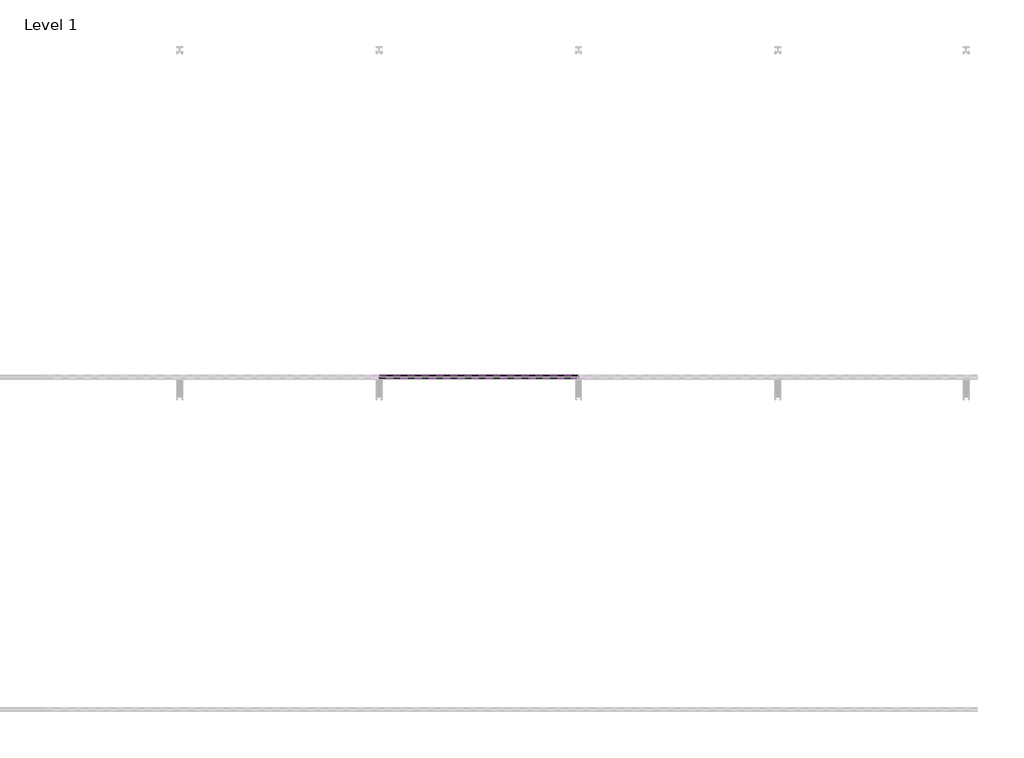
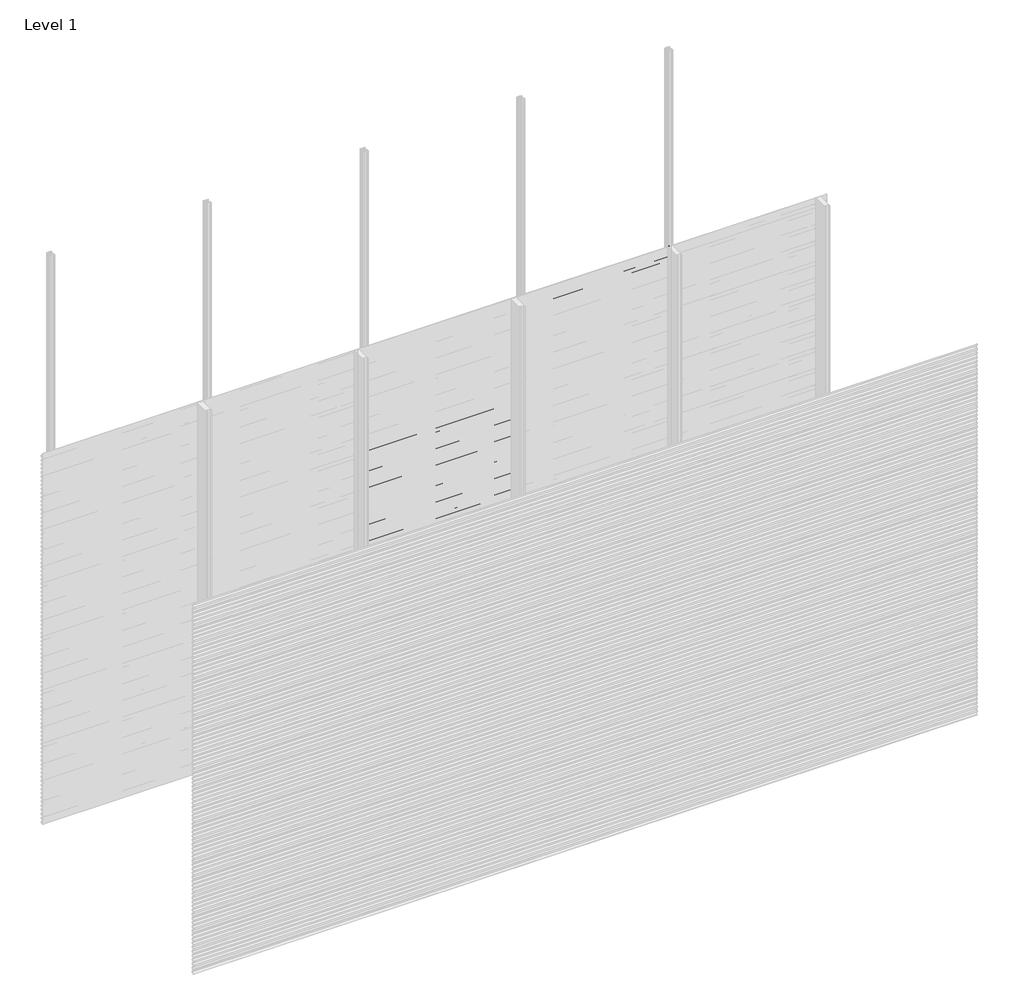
# One storey, part 15 of 77: 72 proxies.
"""IFC4 building model written with IfcOpenShell, lengths in millimetres."""

from ifc_helpers import new_model, si_unit, frame, origin, place, context, project, spatial, polyline, outline, extrude, element, save

model = new_model("IFC4")

# Units and contexts
model_context = context("Model", 3, world=origin())
ifc_project = project(units=[si_unit("LENGTHUNIT", "METRE", prefix="MILLI")], contexts=[model_context])

# Site, building, storey
site = spatial("IfcSite", under=ifc_project)
building = spatial("IfcBuilding", under=site)
storey = spatial("IfcBuildingStorey", under=building, Name="Level 1", Elevation=0.0)

# Proxies
placement = place(None, origin())
element("IfcBuildingElementProxy", 1, Name="Wall Sweeps", at=placement, inside=storey, context=model_context, shape_type="SweptSolid", body=[
    extrude(outline(polyline([(-47978.6, 2206.6359887), (-47998.0, 2217.8366691), (-47998.0, 2231.1), (-47997.0, 2231.1), (-47997.0, 2218.4191057), (-47977.6, 2207.2185105), (-47977.6, 2193.6185105), (-47978.6, 2195.1953129), (-47978.6, 2201.0032062), (-47995.9773817, 2192.9), (-47996.4, 2193.8063078), (-47978.6, 2202.1065841), (-47978.6, 2206.6359887)])), frame((2400.0, 0.0, 0.0), z_axis=(1.0, 0.0, 0.0), x_axis=(0.0, 1.0, 0.0)), (0.0, 0.0, 1.0), 1200.0),
])
element("IfcBuildingElementProxy", 2, Name="Wall Sweeps", at=placement, inside=storey, context=model_context, shape_type="SweptSolid", body=[
    extrude(outline(polyline([(-47978.6, 2173.3359887), (-47998.0, 2184.5366691), (-47998.0, 2197.8), (-47997.0, 2197.8), (-47997.0, 2185.1191057), (-47977.6, 2173.9185105), (-47977.6, 2160.3185105), (-47978.6, 2161.8953129), (-47978.6, 2167.7032062), (-47995.9773817, 2159.6), (-47996.4, 2160.5063078), (-47978.6, 2168.8065841), (-47978.6, 2173.3359887)])), frame((2400.0, 0.0, 0.0), z_axis=(1.0, 0.0, 0.0), x_axis=(0.0, 1.0, 0.0)), (0.0, 0.0, 1.0), 1200.0),
])
element("IfcBuildingElementProxy", 3, Name="Wall Sweeps", at=placement, inside=storey, context=model_context, shape_type="SweptSolid", body=[
    extrude(outline(polyline([(-47978.6, 2140.0359887), (-47998.0, 2151.2366691), (-47998.0, 2164.5), (-47997.0, 2164.5), (-47997.0, 2151.8191057), (-47977.6, 2140.6185105), (-47977.6, 2127.0185105), (-47978.6, 2128.5953129), (-47978.6, 2134.4032062), (-47995.9773817, 2126.3), (-47996.4, 2127.2063078), (-47978.6, 2135.5065841), (-47978.6, 2140.0359887)])), frame((2400.0, 0.0, 0.0), z_axis=(1.0, 0.0, 0.0), x_axis=(0.0, 1.0, 0.0)), (0.0, 0.0, 1.0), 1200.0),
])
element("IfcBuildingElementProxy", 4, Name="Wall Sweeps", at=placement, inside=storey, context=model_context, shape_type="SweptSolid", body=[
    extrude(outline(polyline([(-47978.6, 2106.7359887), (-47998.0, 2117.9366691), (-47998.0, 2131.2), (-47997.0, 2131.2), (-47997.0, 2118.5191057), (-47977.6, 2107.3185105), (-47977.6, 2093.7185105), (-47978.6, 2095.2953129), (-47978.6, 2101.1032062), (-47995.9773817, 2093.0), (-47996.4, 2093.9063078), (-47978.6, 2102.2065841), (-47978.6, 2106.7359887)])), frame((2400.0, 0.0, 0.0), z_axis=(1.0, 0.0, 0.0), x_axis=(0.0, 1.0, 0.0)), (0.0, 0.0, 1.0), 1200.0),
])
element("IfcBuildingElementProxy", 5, Name="Wall Sweeps", at=placement, inside=storey, context=model_context, shape_type="SweptSolid", body=[
    extrude(outline(polyline([(-47978.6, 2073.4359887), (-47998.0, 2084.6366691), (-47998.0, 2097.9), (-47997.0, 2097.9), (-47997.0, 2085.2191057), (-47977.6, 2074.0185105), (-47977.6, 2060.4185105), (-47978.6, 2061.9953129), (-47978.6, 2067.8032062), (-47995.9773817, 2059.7), (-47996.4, 2060.6063078), (-47978.6, 2068.9065841), (-47978.6, 2073.4359887)])), frame((2400.0, 0.0, 0.0), z_axis=(1.0, 0.0, 0.0), x_axis=(0.0, 1.0, 0.0)), (0.0, 0.0, 1.0), 1200.0),
])
element("IfcBuildingElementProxy", 6, Name="Wall Sweeps", at=placement, inside=storey, context=model_context, shape_type="SweptSolid", body=[
    extrude(outline(polyline([(-47978.6, 2040.1359887), (-47998.0, 2051.3366691), (-47998.0, 2064.6), (-47997.0, 2064.6), (-47997.0, 2051.9191057), (-47977.6, 2040.7185105), (-47977.6, 2027.1185105), (-47978.6, 2028.6953129), (-47978.6, 2034.5032062), (-47995.9773817, 2026.4), (-47996.4, 2027.3063078), (-47978.6, 2035.6065841), (-47978.6, 2040.1359887)])), frame((2400.0, 0.0, 0.0), z_axis=(1.0, 0.0, 0.0), x_axis=(0.0, 1.0, 0.0)), (0.0, 0.0, 1.0), 1200.0),
])
element("IfcBuildingElementProxy", 7, Name="Wall Sweeps", at=placement, inside=storey, context=model_context, shape_type="SweptSolid", body=[
    extrude(outline(polyline([(-47978.6, 2006.8359887), (-47998.0, 2018.0366691), (-47998.0, 2031.3), (-47997.0, 2031.3), (-47997.0, 2018.6191057), (-47977.6, 2007.4185105), (-47977.6, 1993.8185105), (-47978.6, 1995.3953129), (-47978.6, 2001.2032062), (-47995.9773817, 1993.1), (-47996.4, 1994.0063078), (-47978.6, 2002.3065841), (-47978.6, 2006.8359887)])), frame((2400.0, 0.0, 0.0), z_axis=(1.0, 0.0, 0.0), x_axis=(0.0, 1.0, 0.0)), (0.0, 0.0, 1.0), 1200.0),
])
element("IfcBuildingElementProxy", 8, Name="Wall Sweeps", at=placement, inside=storey, context=model_context, shape_type="SweptSolid", body=[
    extrude(outline(polyline([(-47978.6, 1973.5359887), (-47998.0, 1984.7366691), (-47998.0, 1998.0), (-47997.0, 1998.0), (-47997.0, 1985.3191057), (-47977.6, 1974.1185105), (-47977.6, 1960.5185105), (-47978.6, 1962.0953129), (-47978.6, 1967.9032062), (-47995.9773817, 1959.8), (-47996.4, 1960.7063078), (-47978.6, 1969.0065841), (-47978.6, 1973.5359887)])), frame((2400.0, 0.0, 0.0), z_axis=(1.0, 0.0, 0.0), x_axis=(0.0, 1.0, 0.0)), (0.0, 0.0, 1.0), 1200.0),
])
element("IfcBuildingElementProxy", 9, Name="Wall Sweeps", at=placement, inside=storey, context=model_context, shape_type="SweptSolid", body=[
    extrude(outline(polyline([(-47978.6, 1940.2359887), (-47998.0, 1951.4366691), (-47998.0, 1964.7), (-47997.0, 1964.7), (-47997.0, 1952.0191057), (-47977.6, 1940.8185105), (-47977.6, 1927.2185105), (-47978.6, 1928.7953129), (-47978.6, 1934.6032062), (-47995.9773817, 1926.5), (-47996.4, 1927.4063078), (-47978.6, 1935.7065841), (-47978.6, 1940.2359887)])), frame((2400.0, 0.0, 0.0), z_axis=(1.0, 0.0, 0.0), x_axis=(0.0, 1.0, 0.0)), (0.0, 0.0, 1.0), 1200.0),
])
element("IfcBuildingElementProxy", 10, Name="Wall Sweeps", at=placement, inside=storey, context=model_context, shape_type="SweptSolid", body=[
    extrude(outline(polyline([(-47978.6, 1906.9359887), (-47998.0, 1918.1366691), (-47998.0, 1931.4), (-47997.0, 1931.4), (-47997.0, 1918.7191057), (-47977.6, 1907.5185105), (-47977.6, 1893.9185105), (-47978.6, 1895.4953129), (-47978.6, 1901.3032062), (-47995.9773817, 1893.2), (-47996.4, 1894.1063078), (-47978.6, 1902.4065841), (-47978.6, 1906.9359887)])), frame((2400.0, 0.0, 0.0), z_axis=(1.0, 0.0, 0.0), x_axis=(0.0, 1.0, 0.0)), (0.0, 0.0, 1.0), 1200.0),
])
element("IfcBuildingElementProxy", 11, Name="Wall Sweeps", at=placement, inside=storey, context=model_context, shape_type="SweptSolid", body=[
    extrude(outline(polyline([(-47978.6, 1873.6359887), (-47998.0, 1884.8366691), (-47998.0, 1898.1), (-47997.0, 1898.1), (-47997.0, 1885.4191057), (-47977.6, 1874.2185105), (-47977.6, 1860.6185105), (-47978.6, 1862.1953129), (-47978.6, 1868.0032062), (-47995.9773817, 1859.9), (-47996.4, 1860.8063078), (-47978.6, 1869.1065841), (-47978.6, 1873.6359887)])), frame((2400.0, 0.0, 0.0), z_axis=(1.0, 0.0, 0.0), x_axis=(0.0, 1.0, 0.0)), (0.0, 0.0, 1.0), 1200.0),
])
element("IfcBuildingElementProxy", 12, Name="Wall Sweeps", at=placement, inside=storey, context=model_context, shape_type="SweptSolid", body=[
    extrude(outline(polyline([(-47978.6, 1840.3359887), (-47998.0, 1851.5366691), (-47998.0, 1864.8), (-47997.0, 1864.8), (-47997.0, 1852.1191057), (-47977.6, 1840.9185105), (-47977.6, 1827.3185105), (-47978.6, 1828.8953129), (-47978.6, 1834.7032062), (-47995.9773817, 1826.6), (-47996.4, 1827.5063078), (-47978.6, 1835.8065841), (-47978.6, 1840.3359887)])), frame((2400.0, 0.0, 0.0), z_axis=(1.0, 0.0, 0.0), x_axis=(0.0, 1.0, 0.0)), (0.0, 0.0, 1.0), 1200.0),
])
element("IfcBuildingElementProxy", 13, Name="Wall Sweeps", at=placement, inside=storey, context=model_context, shape_type="SweptSolid", body=[
    extrude(outline(polyline([(-47978.6, 1807.0359887), (-47998.0, 1818.2366691), (-47998.0, 1831.5), (-47997.0, 1831.5), (-47997.0, 1818.8191057), (-47977.6, 1807.6185105), (-47977.6, 1794.0185105), (-47978.6, 1795.5953129), (-47978.6, 1801.4032062), (-47995.9773817, 1793.3), (-47996.4, 1794.2063078), (-47978.6, 1802.5065841), (-47978.6, 1807.0359887)])), frame((2400.0, 0.0, 0.0), z_axis=(1.0, 0.0, 0.0), x_axis=(0.0, 1.0, 0.0)), (0.0, 0.0, 1.0), 1200.0),
])
element("IfcBuildingElementProxy", 14, Name="Wall Sweeps", at=placement, inside=storey, context=model_context, shape_type="SweptSolid", body=[
    extrude(outline(polyline([(-47978.6, 1773.7359887), (-47998.0, 1784.9366691), (-47998.0, 1798.2), (-47997.0, 1798.2), (-47997.0, 1785.5191057), (-47977.6, 1774.3185105), (-47977.6, 1760.7185105), (-47978.6, 1762.2953129), (-47978.6, 1768.1032062), (-47995.9773817, 1760.0), (-47996.4, 1760.9063078), (-47978.6, 1769.2065841), (-47978.6, 1773.7359887)])), frame((2400.0, 0.0, 0.0), z_axis=(1.0, 0.0, 0.0), x_axis=(0.0, 1.0, 0.0)), (0.0, 0.0, 1.0), 1200.0),
])
element("IfcBuildingElementProxy", 15, Name="Wall Sweeps", at=placement, inside=storey, context=model_context, shape_type="SweptSolid", body=[
    extrude(outline(polyline([(-47978.6, 1740.4359887), (-47998.0, 1751.6366691), (-47998.0, 1764.9), (-47997.0, 1764.9), (-47997.0, 1752.2191057), (-47977.6, 1741.0185105), (-47977.6, 1727.4185105), (-47978.6, 1728.9953129), (-47978.6, 1734.8032062), (-47995.9773817, 1726.7), (-47996.4, 1727.6063078), (-47978.6, 1735.9065841), (-47978.6, 1740.4359887)])), frame((2400.0, 0.0, 0.0), z_axis=(1.0, 0.0, 0.0), x_axis=(0.0, 1.0, 0.0)), (0.0, 0.0, 1.0), 1200.0),
])
element("IfcBuildingElementProxy", 16, Name="Wall Sweeps", at=placement, inside=storey, context=model_context, shape_type="SweptSolid", body=[
    extrude(outline(polyline([(-47978.6, 1707.1359887), (-47998.0, 1718.3366691), (-47998.0, 1731.6), (-47997.0, 1731.6), (-47997.0, 1718.9191057), (-47977.6, 1707.7185105), (-47977.6, 1694.1185105), (-47978.6, 1695.6953129), (-47978.6, 1701.5032062), (-47995.9773817, 1693.4), (-47996.4, 1694.3063078), (-47978.6, 1702.6065841), (-47978.6, 1707.1359887)])), frame((2400.0, 0.0, 0.0), z_axis=(1.0, 0.0, 0.0), x_axis=(0.0, 1.0, 0.0)), (0.0, 0.0, 1.0), 1200.0),
])
element("IfcBuildingElementProxy", 17, Name="Wall Sweeps", at=placement, inside=storey, context=model_context, shape_type="SweptSolid", body=[
    extrude(outline(polyline([(-47978.6, 1673.8359887), (-47998.0, 1685.0366691), (-47998.0, 1698.3), (-47997.0, 1698.3), (-47997.0, 1685.6191057), (-47977.6, 1674.4185105), (-47977.6, 1660.8185105), (-47978.6, 1662.3953129), (-47978.6, 1668.2032062), (-47995.9773817, 1660.1), (-47996.4, 1661.0063078), (-47978.6, 1669.3065841), (-47978.6, 1673.8359887)])), frame((2400.0, 0.0, 0.0), z_axis=(1.0, 0.0, 0.0), x_axis=(0.0, 1.0, 0.0)), (0.0, 0.0, 1.0), 1200.0),
])
element("IfcBuildingElementProxy", 18, Name="Wall Sweeps", at=placement, inside=storey, context=model_context, shape_type="SweptSolid", body=[
    extrude(outline(polyline([(-47978.6, 1640.5359887), (-47998.0, 1651.7366691), (-47998.0, 1665.0), (-47997.0, 1665.0), (-47997.0, 1652.3191057), (-47977.6, 1641.1185105), (-47977.6, 1627.5185105), (-47978.6, 1629.0953129), (-47978.6, 1634.9032062), (-47995.9773817, 1626.8), (-47996.4, 1627.7063078), (-47978.6, 1636.0065841), (-47978.6, 1640.5359887)])), frame((2400.0, 0.0, 0.0), z_axis=(1.0, 0.0, 0.0), x_axis=(0.0, 1.0, 0.0)), (0.0, 0.0, 1.0), 1200.0),
])
element("IfcBuildingElementProxy", 19, Name="Wall Sweeps", at=placement, inside=storey, context=model_context, shape_type="SweptSolid", body=[
    extrude(outline(polyline([(-47978.6, 1607.2359887), (-47998.0, 1618.4366691), (-47998.0, 1631.7), (-47997.0, 1631.7), (-47997.0, 1619.0191057), (-47977.6, 1607.8185105), (-47977.6, 1594.2185105), (-47978.6, 1595.7953129), (-47978.6, 1601.6032062), (-47995.9773817, 1593.5), (-47996.4, 1594.4063078), (-47978.6, 1602.7065841), (-47978.6, 1607.2359887)])), frame((2400.0, 0.0, 0.0), z_axis=(1.0, 0.0, 0.0), x_axis=(0.0, 1.0, 0.0)), (0.0, 0.0, 1.0), 1200.0),
])
element("IfcBuildingElementProxy", 20, Name="Wall Sweeps", at=placement, inside=storey, context=model_context, shape_type="SweptSolid", body=[
    extrude(outline(polyline([(-47978.6, 1573.9359887), (-47998.0, 1585.1366691), (-47998.0, 1598.4), (-47997.0, 1598.4), (-47997.0, 1585.7191057), (-47977.6, 1574.5185105), (-47977.6, 1560.9185105), (-47978.6, 1562.4953129), (-47978.6, 1568.3032062), (-47995.9773817, 1560.2), (-47996.4, 1561.1063078), (-47978.6, 1569.4065841), (-47978.6, 1573.9359887)])), frame((2400.0, 0.0, 0.0), z_axis=(1.0, 0.0, 0.0), x_axis=(0.0, 1.0, 0.0)), (0.0, 0.0, 1.0), 1200.0),
])
element("IfcBuildingElementProxy", 21, Name="Wall Sweeps", at=placement, inside=storey, context=model_context, shape_type="SweptSolid", body=[
    extrude(outline(polyline([(-47978.6, 1540.6359887), (-47998.0, 1551.8366691), (-47998.0, 1565.1), (-47997.0, 1565.1), (-47997.0, 1552.4191057), (-47977.6, 1541.2185105), (-47977.6, 1527.6185105), (-47978.6, 1529.1953129), (-47978.6, 1535.0032062), (-47995.9773817, 1526.9), (-47996.4, 1527.8063078), (-47978.6, 1536.1065841), (-47978.6, 1540.6359887)])), frame((2400.0, 0.0, 0.0), z_axis=(1.0, 0.0, 0.0), x_axis=(0.0, 1.0, 0.0)), (0.0, 0.0, 1.0), 1200.0),
])
element("IfcBuildingElementProxy", 22, Name="Wall Sweeps", at=placement, inside=storey, context=model_context, shape_type="SweptSolid", body=[
    extrude(outline(polyline([(-47978.6, 1507.3359887), (-47998.0, 1518.5366691), (-47998.0, 1531.8), (-47997.0, 1531.8), (-47997.0, 1519.1191057), (-47977.6, 1507.9185105), (-47977.6, 1494.3185105), (-47978.6, 1495.8953129), (-47978.6, 1501.7032062), (-47995.9773817, 1493.6), (-47996.4, 1494.5063078), (-47978.6, 1502.8065841), (-47978.6, 1507.3359887)])), frame((2400.0, 0.0, 0.0), z_axis=(1.0, 0.0, 0.0), x_axis=(0.0, 1.0, 0.0)), (0.0, 0.0, 1.0), 1200.0),
])
element("IfcBuildingElementProxy", 23, Name="Wall Sweeps", at=placement, inside=storey, context=model_context, shape_type="SweptSolid", body=[
    extrude(outline(polyline([(-47978.6, 1474.0359887), (-47998.0, 1485.2366691), (-47998.0, 1498.5), (-47997.0, 1498.5), (-47997.0, 1485.8191057), (-47977.6, 1474.6185105), (-47977.6, 1461.0185105), (-47978.6, 1462.5953129), (-47978.6, 1468.4032062), (-47995.9773817, 1460.3), (-47996.4, 1461.2063078), (-47978.6, 1469.5065841), (-47978.6, 1474.0359887)])), frame((2400.0, 0.0, 0.0), z_axis=(1.0, 0.0, 0.0), x_axis=(0.0, 1.0, 0.0)), (0.0, 0.0, 1.0), 1200.0),
])
element("IfcBuildingElementProxy", 24, Name="Wall Sweeps", at=placement, inside=storey, context=model_context, shape_type="SweptSolid", body=[
    extrude(outline(polyline([(-47978.6, 1440.7359887), (-47998.0, 1451.9366691), (-47998.0, 1465.2), (-47997.0, 1465.2), (-47997.0, 1452.5191057), (-47977.6, 1441.3185105), (-47977.6, 1427.7185105), (-47978.6, 1429.2953129), (-47978.6, 1435.1032062), (-47995.9773817, 1427.0), (-47996.4, 1427.9063078), (-47978.6, 1436.2065841), (-47978.6, 1440.7359887)])), frame((2400.0, 0.0, 0.0), z_axis=(1.0, 0.0, 0.0), x_axis=(0.0, 1.0, 0.0)), (0.0, 0.0, 1.0), 1200.0),
])
element("IfcBuildingElementProxy", 25, Name="Wall Sweeps", at=placement, inside=storey, context=model_context, shape_type="SweptSolid", body=[
    extrude(outline(polyline([(-47978.6, 1407.4359887), (-47998.0, 1418.6366691), (-47998.0, 1431.9), (-47997.0, 1431.9), (-47997.0, 1419.2191057), (-47977.6, 1408.0185105), (-47977.6, 1394.4185105), (-47978.6, 1395.9953129), (-47978.6, 1401.8032062), (-47995.9773817, 1393.7), (-47996.4, 1394.6063078), (-47978.6, 1402.9065841), (-47978.6, 1407.4359887)])), frame((2400.0, 0.0, 0.0), z_axis=(1.0, 0.0, 0.0), x_axis=(0.0, 1.0, 0.0)), (0.0, 0.0, 1.0), 1200.0),
])
element("IfcBuildingElementProxy", 26, Name="Wall Sweeps", at=placement, inside=storey, context=model_context, shape_type="SweptSolid", body=[
    extrude(outline(polyline([(-47978.6, 1374.1359887), (-47998.0, 1385.3366691), (-47998.0, 1398.6), (-47997.0, 1398.6), (-47997.0, 1385.9191057), (-47977.6, 1374.7185105), (-47977.6, 1361.1185105), (-47978.6, 1362.6953129), (-47978.6, 1368.5032062), (-47995.9773817, 1360.4), (-47996.4, 1361.3063078), (-47978.6, 1369.6065841), (-47978.6, 1374.1359887)])), frame((2400.0, 0.0, 0.0), z_axis=(1.0, 0.0, 0.0), x_axis=(0.0, 1.0, 0.0)), (0.0, 0.0, 1.0), 1200.0),
])
element("IfcBuildingElementProxy", 27, Name="Wall Sweeps", at=placement, inside=storey, context=model_context, shape_type="SweptSolid", body=[
    extrude(outline(polyline([(-47978.6, 1340.8359887), (-47998.0, 1352.0366691), (-47998.0, 1365.3), (-47997.0, 1365.3), (-47997.0, 1352.6191057), (-47977.6, 1341.4185105), (-47977.6, 1327.8185105), (-47978.6, 1329.3953129), (-47978.6, 1335.2032062), (-47995.9773817, 1327.1), (-47996.4, 1328.0063078), (-47978.6, 1336.3065841), (-47978.6, 1340.8359887)])), frame((2400.0, 0.0, 0.0), z_axis=(1.0, 0.0, 0.0), x_axis=(0.0, 1.0, 0.0)), (0.0, 0.0, 1.0), 1200.0),
])
element("IfcBuildingElementProxy", 28, Name="Wall Sweeps", at=placement, inside=storey, context=model_context, shape_type="SweptSolid", body=[
    extrude(outline(polyline([(-47978.6, 1307.5359887), (-47998.0, 1318.7366691), (-47998.0, 1332.0), (-47997.0, 1332.0), (-47997.0, 1319.3191057), (-47977.6, 1308.1185105), (-47977.6, 1294.5185105), (-47978.6, 1296.0953129), (-47978.6, 1301.9032062), (-47995.9773817, 1293.8), (-47996.4, 1294.7063078), (-47978.6, 1303.0065841), (-47978.6, 1307.5359887)])), frame((2400.0, 0.0, 0.0), z_axis=(1.0, 0.0, 0.0), x_axis=(0.0, 1.0, 0.0)), (0.0, 0.0, 1.0), 1200.0),
])
element("IfcBuildingElementProxy", 29, Name="Wall Sweeps", at=placement, inside=storey, context=model_context, shape_type="SweptSolid", body=[
    extrude(outline(polyline([(-47978.6, 1274.2359887), (-47998.0, 1285.4366691), (-47998.0, 1298.7), (-47997.0, 1298.7), (-47997.0, 1286.0191057), (-47977.6, 1274.8185105), (-47977.6, 1261.2185105), (-47978.6, 1262.7953129), (-47978.6, 1268.6032062), (-47995.9773817, 1260.5), (-47996.4, 1261.4063078), (-47978.6, 1269.7065841), (-47978.6, 1274.2359887)])), frame((2400.0, 0.0, 0.0), z_axis=(1.0, 0.0, 0.0), x_axis=(0.0, 1.0, 0.0)), (0.0, 0.0, 1.0), 1200.0),
])
element("IfcBuildingElementProxy", 30, Name="Wall Sweeps", at=placement, inside=storey, context=model_context, shape_type="SweptSolid", body=[
    extrude(outline(polyline([(-47978.6, 1240.9359887), (-47998.0, 1252.1366691), (-47998.0, 1265.4), (-47997.0, 1265.4), (-47997.0, 1252.7191057), (-47977.6, 1241.5185105), (-47977.6, 1227.9185105), (-47978.6, 1229.4953129), (-47978.6, 1235.3032062), (-47995.9773817, 1227.2), (-47996.4, 1228.1063078), (-47978.6, 1236.4065841), (-47978.6, 1240.9359887)])), frame((2400.0, 0.0, 0.0), z_axis=(1.0, 0.0, 0.0), x_axis=(0.0, 1.0, 0.0)), (0.0, 0.0, 1.0), 1200.0),
])
element("IfcBuildingElementProxy", 31, Name="Wall Sweeps", at=placement, inside=storey, context=model_context, shape_type="SweptSolid", body=[
    extrude(outline(polyline([(-47978.6, 1207.6359887), (-47998.0, 1218.8366691), (-47998.0, 1232.1), (-47997.0, 1232.1), (-47997.0, 1219.4191057), (-47977.6, 1208.2185105), (-47977.6, 1194.6185105), (-47978.6, 1196.1953129), (-47978.6, 1202.0032062), (-47995.9773817, 1193.9), (-47996.4, 1194.8063078), (-47978.6, 1203.1065841), (-47978.6, 1207.6359887)])), frame((2400.0, 0.0, 0.0), z_axis=(1.0, 0.0, 0.0), x_axis=(0.0, 1.0, 0.0)), (0.0, 0.0, 1.0), 1200.0),
])
element("IfcBuildingElementProxy", 32, Name="Wall Sweeps", at=placement, inside=storey, context=model_context, shape_type="SweptSolid", body=[
    extrude(outline(polyline([(-47978.6, 1174.3359887), (-47998.0, 1185.5366691), (-47998.0, 1198.8), (-47997.0, 1198.8), (-47997.0, 1186.1191057), (-47977.6, 1174.9185105), (-47977.6, 1161.3185105), (-47978.6, 1162.8953129), (-47978.6, 1168.7032062), (-47995.9773817, 1160.6), (-47996.4, 1161.5063078), (-47978.6, 1169.8065841), (-47978.6, 1174.3359887)])), frame((2400.0, 0.0, 0.0), z_axis=(1.0, 0.0, 0.0), x_axis=(0.0, 1.0, 0.0)), (0.0, 0.0, 1.0), 1200.0),
])
element("IfcBuildingElementProxy", 33, Name="Wall Sweeps", at=placement, inside=storey, context=model_context, shape_type="SweptSolid", body=[
    extrude(outline(polyline([(-47978.6, 1141.0359887), (-47998.0, 1152.2366691), (-47998.0, 1165.5), (-47997.0, 1165.5), (-47997.0, 1152.8191057), (-47977.6, 1141.6185105), (-47977.6, 1128.0185105), (-47978.6, 1129.5953129), (-47978.6, 1135.4032062), (-47995.9773817, 1127.3), (-47996.4, 1128.2063078), (-47978.6, 1136.5065841), (-47978.6, 1141.0359887)])), frame((2400.0, 0.0, 0.0), z_axis=(1.0, 0.0, 0.0), x_axis=(0.0, 1.0, 0.0)), (0.0, 0.0, 1.0), 1200.0),
])
element("IfcBuildingElementProxy", 34, Name="Wall Sweeps", at=placement, inside=storey, context=model_context, shape_type="SweptSolid", body=[
    extrude(outline(polyline([(-47978.6, 1107.7359887), (-47998.0, 1118.9366691), (-47998.0, 1132.2), (-47997.0, 1132.2), (-47997.0, 1119.5191057), (-47977.6, 1108.3185105), (-47977.6, 1094.7185105), (-47978.6, 1096.2953129), (-47978.6, 1102.1032062), (-47995.9773817, 1094.0), (-47996.4, 1094.9063078), (-47978.6, 1103.2065841), (-47978.6, 1107.7359887)])), frame((2400.0, 0.0, 0.0), z_axis=(1.0, 0.0, 0.0), x_axis=(0.0, 1.0, 0.0)), (0.0, 0.0, 1.0), 1200.0),
])
element("IfcBuildingElementProxy", 35, Name="Wall Sweeps", at=placement, inside=storey, context=model_context, shape_type="SweptSolid", body=[
    extrude(outline(polyline([(-47978.6, 1074.4359887), (-47998.0, 1085.6366691), (-47998.0, 1098.9), (-47997.0, 1098.9), (-47997.0, 1086.2191057), (-47977.6, 1075.0185105), (-47977.6, 1061.4185105), (-47978.6, 1062.9953129), (-47978.6, 1068.8032062), (-47995.9773817, 1060.7), (-47996.4, 1061.6063078), (-47978.6, 1069.9065841), (-47978.6, 1074.4359887)])), frame((2400.0, 0.0, 0.0), z_axis=(1.0, 0.0, 0.0), x_axis=(0.0, 1.0, 0.0)), (0.0, 0.0, 1.0), 1200.0),
])
element("IfcBuildingElementProxy", 36, Name="Wall Sweeps", at=placement, inside=storey, context=model_context, shape_type="SweptSolid", body=[
    extrude(outline(polyline([(-47978.6, 1041.1359887), (-47998.0, 1052.3366691), (-47998.0, 1065.6), (-47997.0, 1065.6), (-47997.0, 1052.9191057), (-47977.6, 1041.7185105), (-47977.6, 1028.1185105), (-47978.6, 1029.6953129), (-47978.6, 1035.5032062), (-47995.9773817, 1027.4), (-47996.4, 1028.3063078), (-47978.6, 1036.6065841), (-47978.6, 1041.1359887)])), frame((2400.0, 0.0, 0.0), z_axis=(1.0, 0.0, 0.0), x_axis=(0.0, 1.0, 0.0)), (0.0, 0.0, 1.0), 1200.0),
])
element("IfcBuildingElementProxy", 37, Name="Wall Sweeps", at=placement, inside=storey, context=model_context, shape_type="SweptSolid", body=[
    extrude(outline(polyline([(-47978.6, 1007.8359887), (-47998.0, 1019.0366691), (-47998.0, 1032.3), (-47997.0, 1032.3), (-47997.0, 1019.6191057), (-47977.6, 1008.4185105), (-47977.6, 994.8185105), (-47978.6, 996.3953129), (-47978.6, 1002.2032062), (-47995.9773817, 994.1), (-47996.4, 995.0063078), (-47978.6, 1003.3065841), (-47978.6, 1007.8359887)])), frame((2400.0, 0.0, 0.0), z_axis=(1.0, 0.0, 0.0), x_axis=(0.0, 1.0, 0.0)), (0.0, 0.0, 1.0), 1200.0),
])
element("IfcBuildingElementProxy", 38, Name="Wall Sweeps", at=placement, inside=storey, context=model_context, shape_type="SweptSolid", body=[
    extrude(outline(polyline([(-47978.6, 974.5359887), (-47998.0, 985.7366691), (-47998.0, 999.0), (-47997.0, 999.0), (-47997.0, 986.3191057), (-47977.6, 975.1185105), (-47977.6, 961.5185105), (-47978.6, 963.0953129), (-47978.6, 968.9032062), (-47995.9773817, 960.8), (-47996.4, 961.7063078), (-47978.6, 970.0065841), (-47978.6, 974.5359887)])), frame((2400.0, 0.0, 0.0), z_axis=(1.0, 0.0, 0.0), x_axis=(0.0, 1.0, 0.0)), (0.0, 0.0, 1.0), 1200.0),
])
element("IfcBuildingElementProxy", 39, Name="Wall Sweeps", at=placement, inside=storey, context=model_context, shape_type="SweptSolid", body=[
    extrude(outline(polyline([(-47978.6, 941.2359887), (-47998.0, 952.4366691), (-47998.0, 965.7), (-47997.0, 965.7), (-47997.0, 953.0191057), (-47977.6, 941.8185105), (-47977.6, 928.2185105), (-47978.6, 929.7953129), (-47978.6, 935.6032062), (-47995.9773817, 927.5), (-47996.4, 928.4063078), (-47978.6, 936.7065841), (-47978.6, 941.2359887)])), frame((2400.0, 0.0, 0.0), z_axis=(1.0, 0.0, 0.0), x_axis=(0.0, 1.0, 0.0)), (0.0, 0.0, 1.0), 1200.0),
])
element("IfcBuildingElementProxy", 40, Name="Wall Sweeps", at=placement, inside=storey, context=model_context, shape_type="SweptSolid", body=[
    extrude(outline(polyline([(-47978.6, 907.9359887), (-47998.0, 919.1366691), (-47998.0, 932.4), (-47997.0, 932.4), (-47997.0, 919.7191057), (-47977.6, 908.5185105), (-47977.6, 894.9185105), (-47978.6, 896.4953129), (-47978.6, 902.3032062), (-47995.9773817, 894.2), (-47996.4, 895.1063078), (-47978.6, 903.4065841), (-47978.6, 907.9359887)])), frame((2400.0, 0.0, 0.0), z_axis=(1.0, 0.0, 0.0), x_axis=(0.0, 1.0, 0.0)), (0.0, 0.0, 1.0), 1200.0),
])
element("IfcBuildingElementProxy", 41, Name="Wall Sweeps", at=placement, inside=storey, context=model_context, shape_type="SweptSolid", body=[
    extrude(outline(polyline([(-47978.6, 874.6359887), (-47998.0, 885.8366691), (-47998.0, 899.1), (-47997.0, 899.1), (-47997.0, 886.4191057), (-47977.6, 875.2185105), (-47977.6, 861.6185105), (-47978.6, 863.1953129), (-47978.6, 869.0032062), (-47995.9773817, 860.9), (-47996.4, 861.8063078), (-47978.6, 870.1065841), (-47978.6, 874.6359887)])), frame((2400.0, 0.0, 0.0), z_axis=(1.0, 0.0, 0.0), x_axis=(0.0, 1.0, 0.0)), (0.0, 0.0, 1.0), 1200.0),
])
element("IfcBuildingElementProxy", 42, Name="Wall Sweeps", at=placement, inside=storey, context=model_context, shape_type="SweptSolid", body=[
    extrude(outline(polyline([(-47978.6, 841.3359887), (-47998.0, 852.5366691), (-47998.0, 865.8), (-47997.0, 865.8), (-47997.0, 853.1191057), (-47977.6, 841.9185105), (-47977.6, 828.3185105), (-47978.6, 829.8953129), (-47978.6, 835.7032062), (-47995.9773817, 827.6), (-47996.4, 828.5063078), (-47978.6, 836.8065841), (-47978.6, 841.3359887)])), frame((2400.0, 0.0, 0.0), z_axis=(1.0, 0.0, 0.0), x_axis=(0.0, 1.0, 0.0)), (0.0, 0.0, 1.0), 1200.0),
])
element("IfcBuildingElementProxy", 43, Name="Wall Sweeps", at=placement, inside=storey, context=model_context, shape_type="SweptSolid", body=[
    extrude(outline(polyline([(-47978.6, 808.0359887), (-47998.0, 819.2366691), (-47998.0, 832.5), (-47997.0, 832.5), (-47997.0, 819.8191057), (-47977.6, 808.6185105), (-47977.6, 795.0185105), (-47978.6, 796.5953129), (-47978.6, 802.4032062), (-47995.9773817, 794.3), (-47996.4, 795.2063078), (-47978.6, 803.5065841), (-47978.6, 808.0359887)])), frame((2400.0, 0.0, 0.0), z_axis=(1.0, 0.0, 0.0), x_axis=(0.0, 1.0, 0.0)), (0.0, 0.0, 1.0), 1200.0),
])
element("IfcBuildingElementProxy", 44, Name="Wall Sweeps", at=placement, inside=storey, context=model_context, shape_type="SweptSolid", body=[
    extrude(outline(polyline([(-47978.6, 774.7359887), (-47998.0, 785.9366691), (-47998.0, 799.2), (-47997.0, 799.2), (-47997.0, 786.5191057), (-47977.6, 775.3185105), (-47977.6, 761.7185105), (-47978.6, 763.2953129), (-47978.6, 769.1032062), (-47995.9773817, 761.0), (-47996.4, 761.9063078), (-47978.6, 770.2065841), (-47978.6, 774.7359887)])), frame((2400.0, 0.0, 0.0), z_axis=(1.0, 0.0, 0.0), x_axis=(0.0, 1.0, 0.0)), (0.0, 0.0, 1.0), 1200.0),
])
element("IfcBuildingElementProxy", 45, Name="Wall Sweeps", at=placement, inside=storey, context=model_context, shape_type="SweptSolid", body=[
    extrude(outline(polyline([(-47978.6, 741.4359887), (-47998.0, 752.6366691), (-47998.0, 765.9), (-47997.0, 765.9), (-47997.0, 753.2191057), (-47977.6, 742.0185105), (-47977.6, 728.4185105), (-47978.6, 729.9953129), (-47978.6, 735.8032062), (-47995.9773817, 727.7), (-47996.4, 728.6063078), (-47978.6, 736.9065841), (-47978.6, 741.4359887)])), frame((2400.0, 0.0, 0.0), z_axis=(1.0, 0.0, 0.0), x_axis=(0.0, 1.0, 0.0)), (0.0, 0.0, 1.0), 1200.0),
])
element("IfcBuildingElementProxy", 46, Name="Wall Sweeps", at=placement, inside=storey, context=model_context, shape_type="SweptSolid", body=[
    extrude(outline(polyline([(-47978.6, 708.1359887), (-47998.0, 719.3366691), (-47998.0, 732.6), (-47997.0, 732.6), (-47997.0, 719.9191057), (-47977.6, 708.7185105), (-47977.6, 695.1185105), (-47978.6, 696.6953129), (-47978.6, 702.5032062), (-47995.9773817, 694.4), (-47996.4, 695.3063078), (-47978.6, 703.6065841), (-47978.6, 708.1359887)])), frame((2400.0, 0.0, 0.0), z_axis=(1.0, 0.0, 0.0), x_axis=(0.0, 1.0, 0.0)), (0.0, 0.0, 1.0), 1200.0),
])
element("IfcBuildingElementProxy", 47, Name="Wall Sweeps", at=placement, inside=storey, context=model_context, shape_type="SweptSolid", body=[
    extrude(outline(polyline([(-47978.6, 674.8359887), (-47998.0, 686.0366691), (-47998.0, 699.3), (-47997.0, 699.3), (-47997.0, 686.6191057), (-47977.6, 675.4185105), (-47977.6, 661.8185105), (-47978.6, 663.3953129), (-47978.6, 669.2032062), (-47995.9773817, 661.1), (-47996.4, 662.0063078), (-47978.6, 670.3065841), (-47978.6, 674.8359887)])), frame((2400.0, 0.0, 0.0), z_axis=(1.0, 0.0, 0.0), x_axis=(0.0, 1.0, 0.0)), (0.0, 0.0, 1.0), 1200.0),
])
element("IfcBuildingElementProxy", 48, Name="Wall Sweeps", at=placement, inside=storey, context=model_context, shape_type="SweptSolid", body=[
    extrude(outline(polyline([(-47978.6, 641.5359887), (-47998.0, 652.7366691), (-47998.0, 666.0), (-47997.0, 666.0), (-47997.0, 653.3191057), (-47977.6, 642.1185105), (-47977.6, 628.5185105), (-47978.6, 630.0953129), (-47978.6, 635.9032062), (-47995.9773817, 627.8), (-47996.4, 628.7063078), (-47978.6, 637.0065841), (-47978.6, 641.5359887)])), frame((2400.0, 0.0, 0.0), z_axis=(1.0, 0.0, 0.0), x_axis=(0.0, 1.0, 0.0)), (0.0, 0.0, 1.0), 1200.0),
])
element("IfcBuildingElementProxy", 49, Name="Wall Sweeps", at=placement, inside=storey, context=model_context, shape_type="SweptSolid", body=[
    extrude(outline(polyline([(-47978.6, 608.2359887), (-47998.0, 619.4366691), (-47998.0, 632.7), (-47997.0, 632.7), (-47997.0, 620.0191057), (-47977.6, 608.8185105), (-47977.6, 595.2185105), (-47978.6, 596.7953129), (-47978.6, 602.6032062), (-47995.9773817, 594.5), (-47996.4, 595.4063078), (-47978.6, 603.7065841), (-47978.6, 608.2359887)])), frame((2400.0, 0.0, 0.0), z_axis=(1.0, 0.0, 0.0), x_axis=(0.0, 1.0, 0.0)), (0.0, 0.0, 1.0), 1200.0),
])
element("IfcBuildingElementProxy", 50, Name="Wall Sweeps", at=placement, inside=storey, context=model_context, shape_type="SweptSolid", body=[
    extrude(outline(polyline([(-47978.6, 574.9359887), (-47998.0, 586.1366691), (-47998.0, 599.4), (-47997.0, 599.4), (-47997.0, 586.7191057), (-47977.6, 575.5185105), (-47977.6, 561.9185105), (-47978.6, 563.4953129), (-47978.6, 569.3032062), (-47995.9773817, 561.2), (-47996.4, 562.1063078), (-47978.6, 570.4065841), (-47978.6, 574.9359887)])), frame((2400.0, 0.0, 0.0), z_axis=(1.0, 0.0, 0.0), x_axis=(0.0, 1.0, 0.0)), (0.0, 0.0, 1.0), 1200.0),
])
element("IfcBuildingElementProxy", 51, Name="Wall Sweeps", at=placement, inside=storey, context=model_context, shape_type="SweptSolid", body=[
    extrude(outline(polyline([(-47978.6, 541.6359887), (-47998.0, 552.8366691), (-47998.0, 566.1), (-47997.0, 566.1), (-47997.0, 553.4191057), (-47977.6, 542.2185105), (-47977.6, 528.6185105), (-47978.6, 530.1953129), (-47978.6, 536.0032062), (-47995.9773817, 527.9), (-47996.4, 528.8063078), (-47978.6, 537.1065841), (-47978.6, 541.6359887)])), frame((2400.0, 0.0, 0.0), z_axis=(1.0, 0.0, 0.0), x_axis=(0.0, 1.0, 0.0)), (0.0, 0.0, 1.0), 1200.0),
])
element("IfcBuildingElementProxy", 52, Name="Wall Sweeps", at=placement, inside=storey, context=model_context, shape_type="SweptSolid", body=[
    extrude(outline(polyline([(-47978.6, 508.3359887), (-47998.0, 519.5366691), (-47998.0, 532.8), (-47997.0, 532.8), (-47997.0, 520.1191057), (-47977.6, 508.9185105), (-47977.6, 495.3185105), (-47978.6, 496.8953129), (-47978.6, 502.7032062), (-47995.9773817, 494.6), (-47996.4, 495.5063078), (-47978.6, 503.8065841), (-47978.6, 508.3359887)])), frame((2400.0, 0.0, 0.0), z_axis=(1.0, 0.0, 0.0), x_axis=(0.0, 1.0, 0.0)), (0.0, 0.0, 1.0), 1200.0),
])
element("IfcBuildingElementProxy", 53, Name="Wall Sweeps", at=placement, inside=storey, context=model_context, shape_type="SweptSolid", body=[
    extrude(outline(polyline([(-47978.6, 475.0359887), (-47998.0, 486.2366691), (-47998.0, 499.5), (-47997.0, 499.5), (-47997.0, 486.8191057), (-47977.6, 475.6185105), (-47977.6, 462.0185105), (-47978.6, 463.5953129), (-47978.6, 469.4032062), (-47995.9773817, 461.3), (-47996.4, 462.2063078), (-47978.6, 470.5065841), (-47978.6, 475.0359887)])), frame((2400.0, 0.0, 0.0), z_axis=(1.0, 0.0, 0.0), x_axis=(0.0, 1.0, 0.0)), (0.0, 0.0, 1.0), 1200.0),
])
element("IfcBuildingElementProxy", 54, Name="Wall Sweeps", at=placement, inside=storey, context=model_context, shape_type="SweptSolid", body=[
    extrude(outline(polyline([(-47978.6, 441.7359887), (-47998.0, 452.9366691), (-47998.0, 466.2), (-47997.0, 466.2), (-47997.0, 453.5191057), (-47977.6, 442.3185105), (-47977.6, 428.7185105), (-47978.6, 430.2953129), (-47978.6, 436.1032062), (-47995.9773817, 428.0), (-47996.4, 428.9063078), (-47978.6, 437.2065841), (-47978.6, 441.7359887)])), frame((2400.0, 0.0, 0.0), z_axis=(1.0, 0.0, 0.0), x_axis=(0.0, 1.0, 0.0)), (0.0, 0.0, 1.0), 1200.0),
])
element("IfcBuildingElementProxy", 55, Name="Wall Sweeps", at=placement, inside=storey, context=model_context, shape_type="SweptSolid", body=[
    extrude(outline(polyline([(-47978.6, 408.4359887), (-47998.0, 419.6366691), (-47998.0, 432.9), (-47997.0, 432.9), (-47997.0, 420.2191057), (-47977.6, 409.0185105), (-47977.6, 395.4185105), (-47978.6, 396.9953129), (-47978.6, 402.8032062), (-47995.9773817, 394.7), (-47996.4, 395.6063078), (-47978.6, 403.9065841), (-47978.6, 408.4359887)])), frame((2400.0, 0.0, 0.0), z_axis=(1.0, 0.0, 0.0), x_axis=(0.0, 1.0, 0.0)), (0.0, 0.0, 1.0), 1200.0),
])
element("IfcBuildingElementProxy", 56, Name="Wall Sweeps", at=placement, inside=storey, context=model_context, shape_type="SweptSolid", body=[
    extrude(outline(polyline([(-47978.6, 375.1359887), (-47998.0, 386.3366691), (-47998.0, 399.6), (-47997.0, 399.6), (-47997.0, 386.9191057), (-47977.6, 375.7185105), (-47977.6, 362.1185105), (-47978.6, 363.6953129), (-47978.6, 369.5032062), (-47995.9773817, 361.4), (-47996.4, 362.3063078), (-47978.6, 370.6065841), (-47978.6, 375.1359887)])), frame((2400.0, 0.0, 0.0), z_axis=(1.0, 0.0, 0.0), x_axis=(0.0, 1.0, 0.0)), (0.0, 0.0, 1.0), 1200.0),
])
element("IfcBuildingElementProxy", 57, Name="Wall Sweeps", at=placement, inside=storey, context=model_context, shape_type="SweptSolid", body=[
    extrude(outline(polyline([(-47978.6, 341.8359887), (-47998.0, 353.0366691), (-47998.0, 366.3), (-47997.0, 366.3), (-47997.0, 353.6191057), (-47977.6, 342.4185105), (-47977.6, 328.8185105), (-47978.6, 330.3953129), (-47978.6, 336.2032062), (-47995.9773817, 328.1), (-47996.4, 329.0063078), (-47978.6, 337.3065841), (-47978.6, 341.8359887)])), frame((2400.0, 0.0, 0.0), z_axis=(1.0, 0.0, 0.0), x_axis=(0.0, 1.0, 0.0)), (0.0, 0.0, 1.0), 1200.0),
])
element("IfcBuildingElementProxy", 58, Name="Wall Sweeps", at=placement, inside=storey, context=model_context, shape_type="SweptSolid", body=[
    extrude(outline(polyline([(-47978.6, 308.5359887), (-47998.0, 319.7366691), (-47998.0, 333.0), (-47997.0, 333.0), (-47997.0, 320.3191057), (-47977.6, 309.1185105), (-47977.6, 295.5185105), (-47978.6, 297.0953129), (-47978.6, 302.9032062), (-47995.9773817, 294.8), (-47996.4, 295.7063078), (-47978.6, 304.0065841), (-47978.6, 308.5359887)])), frame((2400.0, 0.0, 0.0), z_axis=(1.0, 0.0, 0.0), x_axis=(0.0, 1.0, 0.0)), (0.0, 0.0, 1.0), 1200.0),
])
element("IfcBuildingElementProxy", 59, Name="Wall Sweeps", at=placement, inside=storey, context=model_context, shape_type="SweptSolid", body=[
    extrude(outline(polyline([(-47978.6, 275.2359887), (-47998.0, 286.4366691), (-47998.0, 299.7), (-47997.0, 299.7), (-47997.0, 287.0191057), (-47977.6, 275.8185105), (-47977.6, 262.2185105), (-47978.6, 263.7953129), (-47978.6, 269.6032062), (-47995.9773817, 261.5), (-47996.4, 262.4063078), (-47978.6, 270.7065841), (-47978.6, 275.2359887)])), frame((2400.0, 0.0, 0.0), z_axis=(1.0, 0.0, 0.0), x_axis=(0.0, 1.0, 0.0)), (0.0, 0.0, 1.0), 1200.0),
])
element("IfcBuildingElementProxy", 60, Name="Wall Sweeps", at=placement, inside=storey, context=model_context, shape_type="SweptSolid", body=[
    extrude(outline(polyline([(-47978.6, 241.9359887), (-47998.0, 253.1366691), (-47998.0, 266.4), (-47997.0, 266.4), (-47997.0, 253.7191057), (-47977.6, 242.5185105), (-47977.6, 228.9185105), (-47978.6, 230.4953129), (-47978.6, 236.3032062), (-47995.9773817, 228.2), (-47996.4, 229.1063078), (-47978.6, 237.4065841), (-47978.6, 241.9359887)])), frame((2400.0, 0.0, 0.0), z_axis=(1.0, 0.0, 0.0), x_axis=(0.0, 1.0, 0.0)), (0.0, 0.0, 1.0), 1200.0),
])
element("IfcBuildingElementProxy", 61, Name="Wall Sweeps", at=placement, inside=storey, context=model_context, shape_type="SweptSolid", body=[
    extrude(outline(polyline([(-47978.6, 208.6359887), (-47998.0, 219.8366691), (-47998.0, 233.1), (-47997.0, 233.1), (-47997.0, 220.4191057), (-47977.6, 209.2185105), (-47977.6, 195.6185105), (-47978.6, 197.1953129), (-47978.6, 203.0032062), (-47995.9773817, 194.9), (-47996.4, 195.8063078), (-47978.6, 204.1065841), (-47978.6, 208.6359887)])), frame((2400.0, 0.0, 0.0), z_axis=(1.0, 0.0, 0.0), x_axis=(0.0, 1.0, 0.0)), (0.0, 0.0, 1.0), 1200.0),
])
element("IfcBuildingElementProxy", 62, Name="Wall Sweeps", at=placement, inside=storey, context=model_context, shape_type="SweptSolid", body=[
    extrude(outline(polyline([(-47978.6, 175.3359887), (-47998.0, 186.5366691), (-47998.0, 199.8), (-47997.0, 199.8), (-47997.0, 187.1191057), (-47977.6, 175.9185105), (-47977.6, 162.3185105), (-47978.6, 163.8953129), (-47978.6, 169.7032062), (-47995.9773817, 161.6), (-47996.4, 162.5063078), (-47978.6, 170.8065841), (-47978.6, 175.3359887)])), frame((2400.0, 0.0, 0.0), z_axis=(1.0, 0.0, 0.0), x_axis=(0.0, 1.0, 0.0)), (0.0, 0.0, 1.0), 1200.0),
])
element("IfcBuildingElementProxy", 63, Name="Wall Sweeps", at=placement, inside=storey, context=model_context, shape_type="SweptSolid", body=[
    extrude(outline(polyline([(-47978.6, 142.0359887), (-47998.0, 153.2366691), (-47998.0, 166.5), (-47997.0, 166.5), (-47997.0, 153.8191057), (-47977.6, 142.6185105), (-47977.6, 129.0185105), (-47978.6, 130.5953129), (-47978.6, 136.4032062), (-47995.9773817, 128.3), (-47996.4, 129.2063078), (-47978.6, 137.5065841), (-47978.6, 142.0359887)])), frame((2400.0, 0.0, 0.0), z_axis=(1.0, 0.0, 0.0), x_axis=(0.0, 1.0, 0.0)), (0.0, 0.0, 1.0), 1200.0),
])
element("IfcBuildingElementProxy", 64, Name="Wall Sweeps", at=placement, inside=storey, context=model_context, shape_type="SweptSolid", body=[
    extrude(outline(polyline([(-47978.6, 108.7359887), (-47998.0, 119.9366691), (-47998.0, 133.2), (-47997.0, 133.2), (-47997.0, 120.5191057), (-47977.6, 109.3185105), (-47977.6, 95.7185105), (-47978.6, 97.2953129), (-47978.6, 103.1032062), (-47995.9773817, 95.0), (-47996.4, 95.9063078), (-47978.6, 104.2065841), (-47978.6, 108.7359887)])), frame((2400.0, 0.0, 0.0), z_axis=(1.0, 0.0, 0.0), x_axis=(0.0, 1.0, 0.0)), (0.0, 0.0, 1.0), 1200.0),
])
element("IfcBuildingElementProxy", 65, Name="Wall Sweeps", at=placement, inside=storey, context=model_context, shape_type="SweptSolid", body=[
    extrude(outline(polyline([(-47978.6, 75.4359887), (-47998.0, 86.6366691), (-47998.0, 99.9), (-47997.0, 99.9), (-47997.0, 87.2191057), (-47977.6, 76.0185105), (-47977.6, 62.4185105), (-47978.6, 63.9953129), (-47978.6, 69.8032062), (-47995.9773817, 61.7), (-47996.4, 62.6063078), (-47978.6, 70.9065841), (-47978.6, 75.4359887)])), frame((2400.0, 0.0, 0.0), z_axis=(1.0, 0.0, 0.0), x_axis=(0.0, 1.0, 0.0)), (0.0, 0.0, 1.0), 1200.0),
])
element("IfcBuildingElementProxy", 66, Name="Wall Sweeps", at=placement, inside=storey, context=model_context, shape_type="SweptSolid", body=[
    extrude(outline(polyline([(-47978.6, 42.1359887), (-47998.0, 53.3366691), (-47998.0, 66.6), (-47997.0, 66.6), (-47997.0, 53.9191057), (-47977.6, 42.7185105), (-47977.6, 29.1185105), (-47978.6, 30.6953129), (-47978.6, 36.5032062), (-47995.9773817, 28.4), (-47996.4, 29.3063078), (-47978.6, 37.6065841), (-47978.6, 42.1359887)])), frame((2400.0, 0.0, 0.0), z_axis=(1.0, 0.0, 0.0), x_axis=(0.0, 1.0, 0.0)), (0.0, 0.0, 1.0), 1200.0),
])
element("IfcBuildingElementProxy", 67, Name="Wall Sweeps", at=placement, inside=storey, context=model_context, shape_type="SweptSolid", body=[
    extrude(outline(polyline([(-47978.6, 8.8359887), (-47998.0, 20.0366691), (-47998.0, 33.3), (-47997.0, 33.3), (-47997.0, 20.6191057), (-47977.6, 9.4185105), (-47977.6, -4.1814895), (-47978.6, -2.6046871), (-47978.6, 3.2032062), (-47995.9773817, -4.9), (-47996.4, -3.9936922), (-47978.6, 4.3065841), (-47978.6, 8.8359887)])), frame((2400.0, 0.0, 0.0), z_axis=(1.0, 0.0, 0.0), x_axis=(0.0, 1.0, 0.0)), (0.0, 0.0, 1.0), 1200.0),
])
element("IfcBuildingElementProxy", 68, Name="Wall Sweeps", at=placement, inside=storey, context=model_context, shape_type="SweptSolid", body=[
    extrude(outline(polyline([(-47978.6, 2972.5359887), (-47998.0, 2983.7366691), (-47998.0, 2997.0), (-47997.0, 2997.0), (-47997.0, 2984.3191057), (-47977.6, 2973.1185105), (-47977.6, 2959.5185105), (-47978.6, 2961.0953129), (-47978.6, 2966.9032062), (-47995.9773817, 2958.8), (-47996.4, 2959.7063078), (-47978.6, 2968.0065841), (-47978.6, 2972.5359887)])), frame((3600.0, 0.0, 0.0), z_axis=(1.0, 0.0, 0.0), x_axis=(0.0, 1.0, 0.0)), (0.0, 0.0, 1.0), 1200.0),
])
element("IfcBuildingElementProxy", 69, Name="Wall Sweeps", at=placement, inside=storey, context=model_context, shape_type="SweptSolid", body=[
    extrude(outline(polyline([(-47978.6, 2939.2359887), (-47998.0, 2950.4366691), (-47998.0, 2963.7), (-47997.0, 2963.7), (-47997.0, 2951.0191057), (-47977.6, 2939.8185105), (-47977.6, 2926.2185105), (-47978.6, 2927.7953129), (-47978.6, 2933.6032062), (-47995.9773817, 2925.5), (-47996.4, 2926.4063078), (-47978.6, 2934.7065841), (-47978.6, 2939.2359887)])), frame((3600.0, 0.0, 0.0), z_axis=(1.0, 0.0, 0.0), x_axis=(0.0, 1.0, 0.0)), (0.0, 0.0, 1.0), 1200.0),
])
element("IfcBuildingElementProxy", 70, Name="Wall Sweeps", at=placement, inside=storey, context=model_context, shape_type="SweptSolid", body=[
    extrude(outline(polyline([(-47978.6, 2905.9359887), (-47998.0, 2917.1366691), (-47998.0, 2930.4), (-47997.0, 2930.4), (-47997.0, 2917.7191057), (-47977.6, 2906.5185105), (-47977.6, 2892.9185105), (-47978.6, 2894.4953129), (-47978.6, 2900.3032062), (-47995.9773817, 2892.2), (-47996.4, 2893.1063078), (-47978.6, 2901.4065841), (-47978.6, 2905.9359887)])), frame((3600.0, 0.0, 0.0), z_axis=(1.0, 0.0, 0.0), x_axis=(0.0, 1.0, 0.0)), (0.0, 0.0, 1.0), 1200.0),
])
element("IfcBuildingElementProxy", 71, Name="Wall Sweeps", at=placement, inside=storey, context=model_context, shape_type="SweptSolid", body=[
    extrude(outline(polyline([(-47978.6, 2872.6359887), (-47998.0, 2883.8366691), (-47998.0, 2897.1), (-47997.0, 2897.1), (-47997.0, 2884.4191057), (-47977.6, 2873.2185105), (-47977.6, 2859.6185105), (-47978.6, 2861.1953129), (-47978.6, 2867.0032062), (-47995.9773817, 2858.9), (-47996.4, 2859.8063078), (-47978.6, 2868.1065841), (-47978.6, 2872.6359887)])), frame((3600.0, 0.0, 0.0), z_axis=(1.0, 0.0, 0.0), x_axis=(0.0, 1.0, 0.0)), (0.0, 0.0, 1.0), 1200.0),
])
element("IfcBuildingElementProxy", 72, Name="Wall Sweeps", at=placement, inside=storey, context=model_context, shape_type="SweptSolid", body=[
    extrude(outline(polyline([(-47978.6, 2839.3359887), (-47998.0, 2850.5366691), (-47998.0, 2863.8), (-47997.0, 2863.8), (-47997.0, 2851.1191057), (-47977.6, 2839.9185105), (-47977.6, 2826.3185105), (-47978.6, 2827.8953129), (-47978.6, 2833.7032062), (-47995.9773817, 2825.6), (-47996.4, 2826.5063078), (-47978.6, 2834.8065841), (-47978.6, 2839.3359887)])), frame((3600.0, 0.0, 0.0), z_axis=(1.0, 0.0, 0.0), x_axis=(0.0, 1.0, 0.0)), (0.0, 0.0, 1.0), 1200.0),
])

save(model, "model.ifc")
